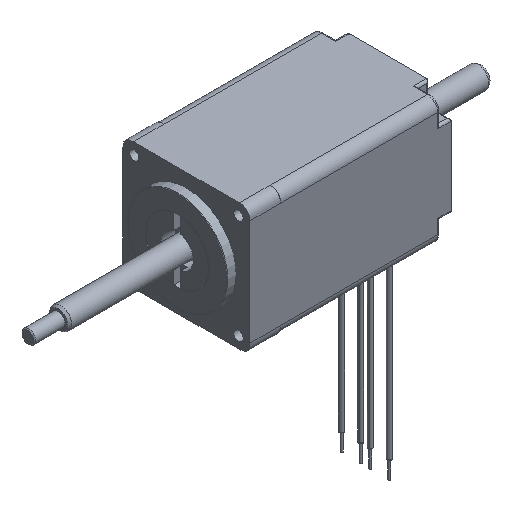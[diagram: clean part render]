
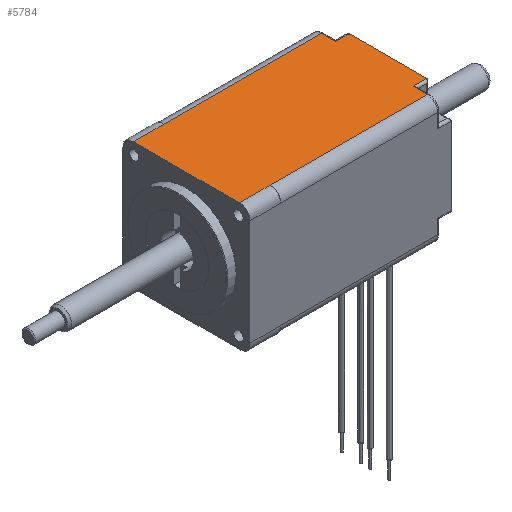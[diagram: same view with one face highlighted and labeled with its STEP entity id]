
A CAD part, isometric view. The second image highlights one B-rep face of the part: STEP entity #5784.
In plain terms, the highlighted planar face has unit normal (0, 0, 1).
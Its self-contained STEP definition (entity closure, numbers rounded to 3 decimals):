
#538=CARTESIAN_POINT('',(0.,-11.7,14.));
#539=VERTEX_POINT('',#538);
#546=CARTESIAN_POINT('',(0.,11.7,14.));
#547=VERTEX_POINT('',#546);
#548=CARTESIAN_POINT('',(0.,-11.7,14.));
#549=DIRECTION('',(0.,1.,0.));
#550=VECTOR('',#549,23.4);
#551=LINE('',#548,#550);
#552=EDGE_CURVE('',#539,#547,#551,.T.);
#807=CARTESIAN_POINT('',(6.8,11.7,14.));
#808=VERTEX_POINT('',#807);
#809=CARTESIAN_POINT('',(0.,11.7,14.));
#810=DIRECTION('',(1.,0.,0.));
#811=VECTOR('',#810,6.8);
#812=LINE('',#809,#811);
#813=EDGE_CURVE('',#547,#808,#812,.T.);
#848=CARTESIAN_POINT('',(6.8,-11.7,14.));
#849=VERTEX_POINT('',#848);
#856=CARTESIAN_POINT('',(6.8,-11.7,14.));
#857=DIRECTION('',(-1.,0.,0.));
#858=VECTOR('',#857,6.8);
#859=LINE('',#856,#858);
#860=EDGE_CURVE('',#849,#539,#859,.T.);
#2172=CARTESIAN_POINT('',(41.5,11.7,14.));
#2173=VERTEX_POINT('',#2172);
#2174=CARTESIAN_POINT('',(6.8,11.7,14.));
#2175=DIRECTION('',(1.,0.,0.));
#2176=VECTOR('',#2175,34.7);
#2177=LINE('',#2174,#2176);
#2178=EDGE_CURVE('',#808,#2173,#2177,.T.);
#2212=CARTESIAN_POINT('',(41.5,-11.7,14.));
#2213=VERTEX_POINT('',#2212);
#2221=CARTESIAN_POINT('',(41.5,-11.7,14.));
#2222=DIRECTION('',(-1.,0.,0.));
#2223=VECTOR('',#2222,34.7);
#2224=LINE('',#2221,#2223);
#2225=EDGE_CURVE('',#2213,#849,#2224,.T.);
#5558=CARTESIAN_POINT('',(44.5,8.55,14.));
#5559=VERTEX_POINT('',#5558);
#5566=CARTESIAN_POINT('',(44.5,-8.55,14.));
#5567=VERTEX_POINT('',#5566);
#5568=CARTESIAN_POINT('',(44.5,8.55,14.));
#5569=DIRECTION('',(0.,-1.,0.));
#5570=VECTOR('',#5569,17.1);
#5571=LINE('',#5568,#5570);
#5572=EDGE_CURVE('',#5559,#5567,#5571,.T.);
#5743=CARTESIAN_POINT('',(21.75,0.,14.));
#5744=DIRECTION('',(0.,-1.,0.));
#5745=DIRECTION('',(-0.,0.,1.));
#5746=AXIS2_PLACEMENT_3D('',#5743,#5745,#5744);
#5747=PLANE('',#5746);
#5748=CARTESIAN_POINT('',(41.5,-8.55,14.));
#5749=VERTEX_POINT('',#5748);
#5750=CARTESIAN_POINT('',(41.5,-11.7,14.));
#5751=DIRECTION('',(0.,1.,0.));
#5752=VECTOR('',#5751,3.15);
#5753=LINE('',#5750,#5752);
#5754=EDGE_CURVE('',#2213,#5749,#5753,.T.);
#5755=ORIENTED_EDGE('E526',*,*,#5754,.T.);
#5756=CARTESIAN_POINT('',(41.5,-8.55,14.));
#5757=DIRECTION('',(1.,0.,0.));
#5758=VECTOR('',#5757,3.);
#5759=LINE('',#5756,#5758);
#5760=EDGE_CURVE('',#5749,#5567,#5759,.T.);
#5761=ORIENTED_EDGE('E527',*,*,#5760,.T.);
#5762=ORIENTED_EDGE('E527',*,*,#5572,.F.);
#5763=CARTESIAN_POINT('',(41.5,8.55,14.));
#5764=VERTEX_POINT('',#5763);
#5765=CARTESIAN_POINT('',(44.5,8.55,14.));
#5766=DIRECTION('',(-1.,0.,0.));
#5767=VECTOR('',#5766,3.);
#5768=LINE('',#5765,#5767);
#5769=EDGE_CURVE('',#5559,#5764,#5768,.T.);
#5770=ORIENTED_EDGE('E528',*,*,#5769,.T.);
#5771=CARTESIAN_POINT('',(41.5,8.55,14.));
#5772=DIRECTION('',(0.,1.,0.));
#5773=VECTOR('',#5772,3.15);
#5774=LINE('',#5771,#5773);
#5775=EDGE_CURVE('',#5764,#2173,#5774,.T.);
#5776=ORIENTED_EDGE('E529',*,*,#5775,.T.);
#5777=ORIENTED_EDGE('E529',*,*,#2178,.F.);
#5778=ORIENTED_EDGE('E529',*,*,#813,.F.);
#5779=ORIENTED_EDGE('E529',*,*,#552,.F.);
#5780=ORIENTED_EDGE('E529',*,*,#860,.F.);
#5781=ORIENTED_EDGE('E529',*,*,#2225,.F.);
#5782=EDGE_LOOP('',(#5755,#5761,#5762,#5770,#5776,#5777,#5778,#5779,#5780,#5781));
#5783=FACE_OUTER_BOUND('',#5782,.T.);
#5784=ADVANCED_FACE('F161',(#5783),#5747,.T.);
